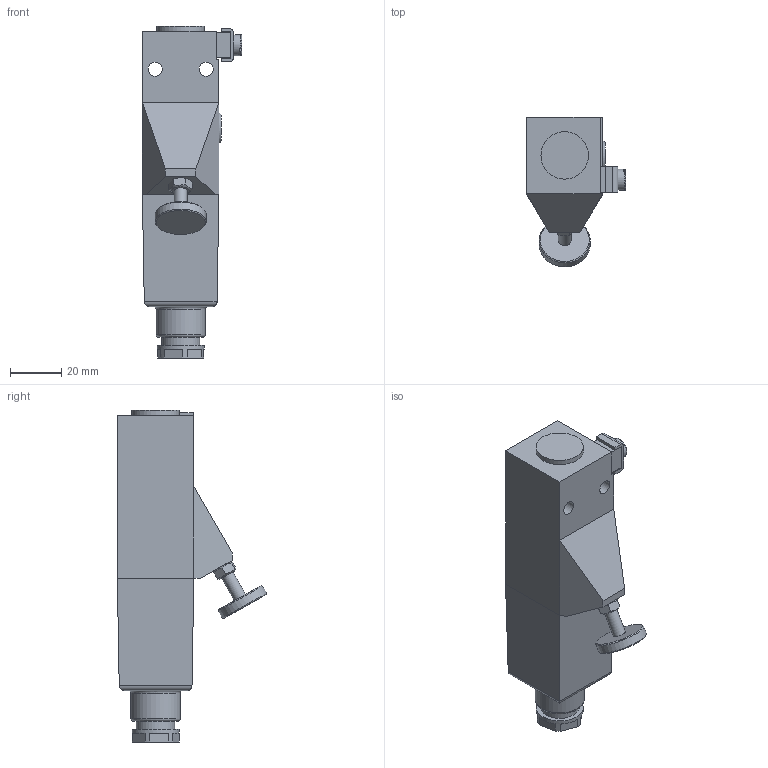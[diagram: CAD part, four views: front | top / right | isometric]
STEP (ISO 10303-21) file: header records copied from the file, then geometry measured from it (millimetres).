
FILE_DESCRIPTION((''),'2;1');
FILE_NAME('F:\AirCom-Produktdokumentation\Druckschalter\DS35\CAD\CAD AirCom\3D\B-DS35.stp','2008-10-15T16:51:01',('Frank Schroers'),(''),'Autodesk Inventor 2008','Autodesk Inventor 2008','');
FILE_SCHEMA(('AUTOMOTIVE_DESIGN { 1 0 10303 214 1 1 1 1 }'));
Length unit declared in the file: millimetre
Products named in the file (5): B-DS35-B; B-DS35-B-Geahaeuse; B-DS17-Verschraubung; DIN 653 M5 x 20; 28674 M5
Assembly tree (4 placements, depth 2):
  B-DS35-B
    B-DS35-B-Geahaeuse
    B-DS17-Verschraubung
    DIN 653 M5 x 20
    28674 M5
Bounding box: 38.9 x 58.55 x 130.14 mm (x, y, z)
Volume: 106602.5 mm3; surface area: 21057.8 mm2
Topology: 4 solids, 4 shells, 170 faces, 403 edges, 262 vertices
Faces by surface type: plane 123, cylinder 29, cone 7, bspline 6, torus 4, sphere 1
Full cylindrical faces by diameter (mm): 1.315 x1, 3.06 x1, 5 x1, 5.5 x2, 8.3 x1, 10 x1, 14 x1, 15 x1, 18.5 x1, 18.6 x1, 19.3 x1, 20 x1
Entity records: 5056 total; most frequent: CARTESIAN_POINT 1019, DIRECTION 789, ORIENTED_EDGE 740, EDGE_CURVE 370, VECTOR 265, LINE 265, AXIS2_PLACEMENT_3D 262, VERTEX_POINT 257
